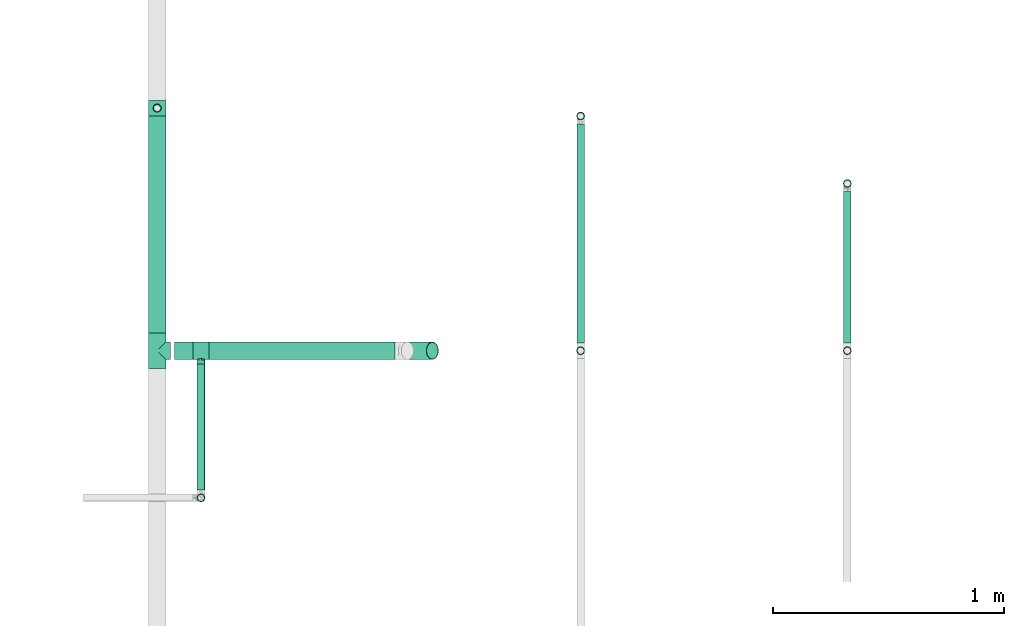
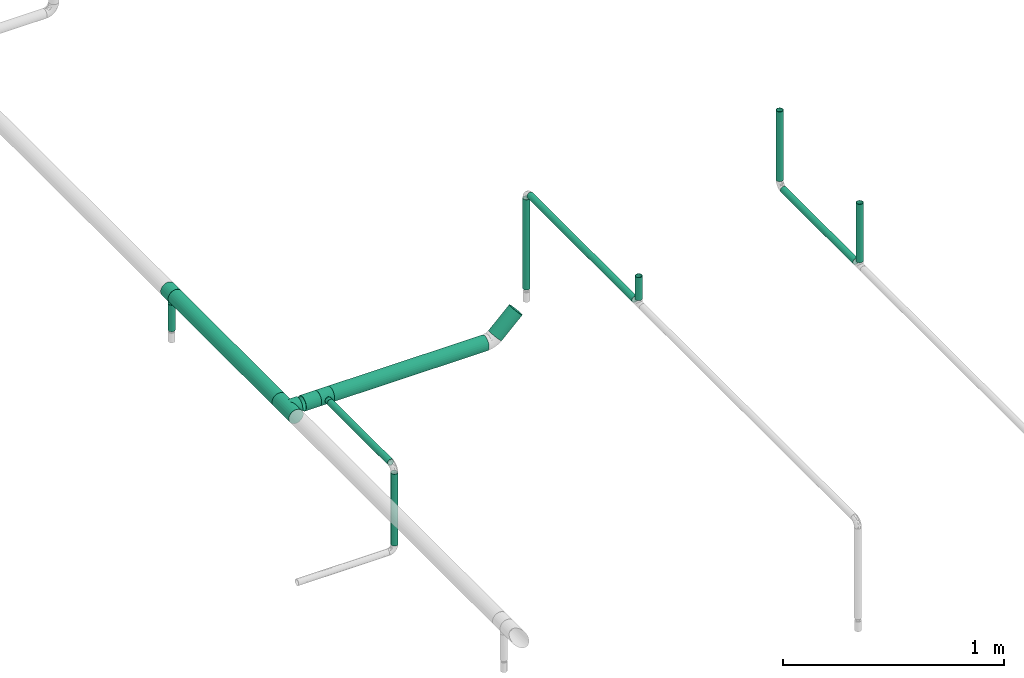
# One storey, part 6 of 95: 13 flow segments, 3 flow fittings.
"""IFC2X3 building model written with IfcOpenShell, lengths in millimetres."""

from ifc_helpers import new_model, entity, si_unit, converted_unit, derived_unit, direction, frame, origin_with_axes, origin_2d_with_axis, place, context, subcontext, project, spatial, hollow_circle, extrude, open_shell, surface_model, source, transform, mapped, type_object, element, save


model = new_model("IFC2X3")

# Units and contexts
model_context = context("Model", 3, precision=0.01, world=frame((0.0, 4.29681676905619e-09, 0.0)), true_north=direction((4.01073788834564e-13, 1.0)))
plan_context = context("Plan", 3, precision=0.01, world=frame((0.0, 4.29681676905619e-09, 0.0)), true_north=direction((4.01073788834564e-13, 1.0)))
body_context = subcontext(model_context, "Body", "Model", "MODEL_VIEW")
ifc_project = project(units=[converted_unit("PLANEANGLEUNIT", "DEGREE", entity("IfcPositiveLengthMeasure", 0.0174532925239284), si_unit("PLANEANGLEUNIT", "RADIAN"), dimensions=[0, 0, 0, 0, 0, 0, 0]), si_unit("AREAUNIT", "SQUARE_METRE"), si_unit("LENGTHUNIT", "METRE", prefix="MILLI"), si_unit("MASSUNIT", "GRAM", prefix="KILO"), si_unit("POWERUNIT", "WATT"), si_unit("PRESSUREUNIT", "PASCAL"), si_unit("FORCEUNIT", "NEWTON", prefix="KILO"), si_unit("ELECTRICVOLTAGEUNIT", "VOLT"), si_unit("ELECTRICCURRENTUNIT", "AMPERE"), si_unit("THERMODYNAMICTEMPERATUREUNIT", "DEGREE_CELSIUS"), si_unit("TIMEUNIT", "SECOND"), si_unit("VOLUMEUNIT", "CUBIC_METRE"), derived_unit("LINEARVELOCITYUNIT", [(si_unit("LENGTHUNIT", "METRE"), 1), (si_unit("TIMEUNIT", "SECOND"), -1)]), derived_unit("VOLUMETRICFLOWRATEUNIT", [(si_unit("VOLUMEUNIT", "CUBIC_METRE"), 1), (si_unit("TIMEUNIT", "SECOND"), -1)]), derived_unit("THERMALTRANSMITTANCEUNIT", [(si_unit("POWERUNIT", "WATT"), 1), (si_unit("THERMODYNAMICTEMPERATUREUNIT", "KELVIN"), -1), (si_unit("AREAUNIT", "SQUARE_METRE"), -1)]), derived_unit("SOUNDPRESSUREUNIT", [(si_unit("PRESSUREUNIT", "PASCAL"), 1)])], contexts=[model_context, plan_context])

# Site, building, storey
site_placement = place(None, frame((0.0, -4.29681676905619e-09, 0.0), z_axis=(0.0, 0.0, 1.0), x_axis=(1.0, 0.0, 0.0)))
site = spatial("IfcSite", under=ifc_project, at=site_placement, CompositionType="ELEMENT")
building_placement = place(site_placement, frame((0.0, 4.29681676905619e-09, 0.0), z_axis=(0.0, 0.0, 1.0), x_axis=(1.0, 0.0, 0.0)))
building = spatial("IfcBuilding", under=site, at=building_placement, Name="mc-building", CompositionType="ELEMENT")
storey_placement = place(building_placement, frame((0.0, 0.0, 210900.0), z_axis=(0.0, 0.0, 1.0), x_axis=(1.0, 0.0, 0.0)))
storey = spatial("IfcBuildingStorey", under=building, at=storey_placement, Name="Nivå F", CompositionType="ELEMENT", Elevation=210900.0)

# Flow fittings
pipe_fitting_type = type_object("IfcPipeFittingType", Name="magi_pipe_fe_tee_centric_90_NOR", PredefinedType="JUNCTION")
shared_shape_1 = source(origin_with_axes(), body_context, "Body", "SurfaceModel", [
    surface_model("IfcShellBasedSurfaceModel", [(-76.2, 19.05, -32.99557), (-76.2, 9.86101, -36.80177), (-76.2, 0.0, -38.1), (-76.2, 26.94077, -26.94077), (-76.2, 36.80177, -9.86101), (-76.2, 32.99557, -19.05), (-76.2, -19.05, -32.99557), (-76.2, -26.94077, -26.94077), (-76.2, -9.86101, -36.80177), (-76.2, 38.1, 0.0), (-76.2, 36.80177, 9.86101), (-76.2, -38.1, 0.0), (-76.2, -36.80177, -9.86101), (-76.2, -32.99557, -19.05), (-76.2, 32.99557, 19.05), (-76.2, -36.80177, 9.86101), (-76.2, 19.05, 32.99557), (-76.2, 26.94077, 26.94077), (-76.2, 0.0, 38.1), (-76.2, 9.86101, 36.80177), (-76.2, -26.94077, 26.94077), (-76.2, -32.99557, 19.05), (-76.2, -9.86101, 36.80177), (-76.2, -19.05, 32.99557), (76.2, 0.0, -38.1), (76.2, -36.80177, 9.86101), (76.2, -38.1, 0.0), (76.2, 36.80177, -9.86101), (76.2, 9.86101, -36.80177), (76.2, 19.05, -32.99557), (76.2, 26.94077, -26.94077), (76.2, 32.99557, -19.05), (76.2, -9.86101, -36.80177), (76.2, -26.94077, -26.94077), (76.2, -19.05, -32.99557), (76.2, -32.99557, -19.05), (76.2, -36.80177, -9.86101), (76.2, 19.05, 32.99557), (76.2, 36.80177, 9.86101), (76.2, 32.99557, 19.05), (76.2, 0.0, 38.1), (76.2, 26.94077, 26.94077), (76.2, 9.86101, 36.80177), (76.2, -32.99557, 19.05), (76.2, -26.94077, 26.94077), (76.2, -19.05, 32.99557), (76.2, -9.86101, 36.80177), (76.2, 38.1, 0.0), (37.03376, -37.03376, 8.95045), (38.1, -38.1, 0.0), (76.2, -34.89867, 14.4555), (35.56052, -35.56052, 12.98504), (34.08727, -34.08727, 17.01964), (18.8305, -18.8305, 33.12132), (76.2, -22.99539, 29.96817), (29.78269, -29.78269, 23.76134), (76.2, -29.96817, 22.99539), (24.5894, -24.5894, 29.10277), (-35.56052, -35.56052, 12.98504), (-76.2, -34.89867, 14.4555), (-34.08727, -34.08727, 17.01964), (-37.03376, -37.03376, 8.95045), (-38.1, -38.1, 0.0), (-18.8305, -18.8305, 33.12132), (-76.2, -22.99539, 29.96817), (-29.78269, -29.78269, 23.76134), (-24.5894, -24.5894, 29.10277), (-76.2, -29.96817, 22.99539), (-12.71924, -12.71924, 35.91422), (6.40528, -6.40528, 37.55772), (12.71924, -12.71924, 35.91422), (0.0, 0.0, 38.1), (-6.40528, -6.40528, 37.55772), (6.40528, -6.40528, -37.55772), (0.0, 0.0, -38.1), (12.71924, -12.71924, -35.91422), (-24.5894, -24.5894, -29.10277), (-76.2, -22.99539, -29.96817), (-35.56052, -35.56052, -12.98504), (-37.03376, -37.03376, -8.95045), (-29.78269, -29.78269, -23.76134), (-76.2, -29.96817, -22.99539), (-6.40528, -6.40528, -37.55772), (-12.71924, -12.71924, -35.91422), (18.8305, -18.8305, -33.12132), (76.2, -22.99539, -29.96817), (24.5894, -24.5894, -29.10277), (-76.2, -34.89867, -14.4555), (-34.08727, -34.08727, -17.01964), (29.78269, -29.78269, -23.76134), (76.2, -29.96817, -22.99539), (37.03376, -37.03376, -8.95045), (35.56052, -35.56052, -12.98504), (34.08727, -34.08727, -17.01964), (76.2, -34.89867, -14.4555), (-18.8305, -18.8305, -33.12132), (0.0, -57.15, -38.1), (9.86101, -57.15, -36.80177), (19.05, -57.15, -32.99557), (26.94077, -57.15, -26.94077), (32.99557, -57.15, -19.05), (36.80177, -57.15, -9.86101), (0.0, -57.15, 38.1), (-26.94077, -57.15, -26.94077), (-9.86101, -57.15, -36.80177), (-19.05, -57.15, -32.99557), (-36.80177, -57.15, -9.86101), (-32.99557, -57.15, -19.05), (-32.99557, -57.15, 19.05), (-36.80177, -57.15, 9.86101), (-38.1, -57.15, 0.0), (19.05, -57.15, 32.99557), (36.80177, -57.15, 9.86101), (32.99557, -57.15, 19.05), (26.94077, -57.15, 26.94077), (9.86101, -57.15, 36.80177), (-26.94077, -57.15, 26.94077), (-19.05, -57.15, 32.99557), (-9.86101, -57.15, 36.80177), (38.1, -57.15, 0.0)], [open_shell([[[0, 1, 2]], [[3, 0, 2]], [[4, 5, 3]], [[6, 7, 8]], [[9, 4, 10]], [[11, 3, 2]], [[4, 3, 11]], [[11, 8, 7]], [[12, 11, 13]], [[7, 13, 11]], [[11, 2, 8]], [[11, 10, 4]], [[14, 10, 11]], [[14, 11, 15]], [[15, 16, 14]], [[17, 14, 16]], [[18, 19, 16]], [[20, 18, 21]], [[15, 21, 18]], [[22, 18, 23]], [[20, 23, 18]], [[18, 16, 15]], [[24, 25, 26]], [[27, 28, 29]], [[30, 31, 27]], [[30, 27, 29]], [[28, 25, 24]], [[32, 33, 34]], [[32, 24, 33]], [[35, 26, 36]], [[26, 35, 33]], [[24, 26, 33]], [[28, 27, 37]], [[27, 38, 37]], [[37, 38, 39]], [[37, 40, 28]], [[37, 39, 41]], [[40, 37, 42]], [[43, 40, 44]], [[25, 28, 43]], [[45, 40, 46]], [[40, 45, 44]], [[40, 43, 28]], [[38, 27, 47]], [[26, 25, 48]], [[48, 49, 26]], [[25, 50, 51]], [[50, 43, 52]], [[45, 53, 54]], [[44, 55, 56]], [[55, 44, 57]], [[43, 55, 52]], [[57, 44, 54]], [[15, 58, 59]], [[60, 59, 58]], [[61, 11, 62]], [[11, 61, 15]], [[15, 61, 58]], [[63, 23, 64]], [[65, 66, 20]], [[65, 67, 21]], [[20, 66, 64]], [[63, 68, 23]], [[65, 21, 60]], [[50, 52, 51]], [[54, 53, 57]], [[46, 40, 69]], [[25, 51, 48]], [[53, 45, 70]], [[69, 70, 46]], [[65, 20, 67]], [[69, 40, 71]], [[70, 45, 46]], [[14, 41, 39]], [[10, 39, 38]], [[16, 42, 37]], [[17, 37, 41]], [[42, 71, 40]], [[9, 38, 47]], [[72, 71, 18]], [[60, 21, 59]], [[72, 22, 68]], [[22, 72, 18]], [[22, 23, 68]], [[71, 19, 18]], [[63, 64, 66]], [[42, 19, 71]], [[16, 19, 42]], [[16, 37, 17]], [[14, 17, 41]], [[10, 14, 39]], [[38, 9, 10]], [[55, 43, 56]], [[3, 31, 30]], [[4, 27, 31]], [[9, 47, 27]], [[0, 30, 29]], [[24, 32, 73]], [[28, 24, 74]], [[73, 32, 75]], [[76, 7, 77]], [[29, 28, 1]], [[32, 34, 75]], [[24, 73, 74]], [[4, 31, 5]], [[0, 3, 30]], [[5, 31, 3]], [[9, 27, 4]], [[12, 78, 79]], [[80, 13, 81]], [[82, 83, 8]], [[74, 82, 2]], [[74, 2, 1]], [[2, 82, 8]], [[83, 6, 8]], [[1, 0, 29]], [[74, 1, 28]], [[84, 85, 86]], [[85, 33, 86]], [[87, 88, 78]], [[84, 34, 85]], [[89, 86, 33]], [[90, 35, 89]], [[34, 84, 75]], [[36, 91, 92]], [[91, 36, 26]], [[93, 94, 92]], [[49, 91, 26]], [[35, 93, 89]], [[76, 77, 95]], [[36, 92, 94]], [[77, 6, 95]], [[7, 76, 80]], [[7, 80, 81]], [[93, 35, 94]], [[95, 6, 83]], [[79, 62, 11]], [[12, 87, 78]], [[88, 87, 13]], [[12, 79, 11]], [[88, 13, 80]], [[89, 33, 90]], [[96, 97, 98]], [[96, 98, 99]], [[99, 100, 101]], [[99, 101, 96]], [[102, 103, 96]], [[104, 103, 105]], [[104, 96, 103]], [[103, 106, 107]], [[103, 108, 106]], [[106, 109, 110]], [[111, 96, 101]], [[112, 113, 101]], [[101, 113, 111]], [[111, 102, 96]], [[111, 113, 114]], [[102, 111, 115]], [[108, 102, 116]], [[109, 106, 108]], [[117, 102, 118]], [[102, 117, 116]], [[102, 108, 103]], [[112, 101, 119]], [[61, 62, 110]], [[109, 61, 110]], [[116, 117, 66]], [[65, 108, 116]], [[60, 109, 108]], [[68, 117, 118]], [[60, 61, 109]], [[66, 65, 116]], [[60, 108, 65]], [[68, 63, 117]], [[102, 71, 72]], [[68, 118, 72]], [[66, 117, 63]], [[72, 118, 102]], [[69, 102, 115]], [[111, 70, 115]], [[113, 112, 52]], [[55, 114, 113]], [[57, 111, 114]], [[48, 112, 119]], [[57, 53, 111]], [[70, 69, 115]], [[53, 70, 111]], [[49, 48, 119]], [[52, 55, 113]], [[48, 52, 112]], [[57, 114, 55]], [[102, 69, 71]], [[49, 119, 91]], [[101, 91, 119]], [[89, 100, 99]], [[99, 98, 86]], [[93, 101, 100]], [[75, 98, 97]], [[93, 91, 101]], [[86, 89, 99]], [[93, 100, 89]], [[75, 84, 98]], [[96, 74, 73]], [[75, 97, 73]], [[86, 98, 84]], [[73, 97, 96]], [[82, 96, 104]], [[105, 83, 104]], [[107, 106, 88]], [[80, 103, 107]], [[76, 105, 103]], [[79, 106, 110]], [[76, 95, 105]], [[83, 82, 104]], [[95, 83, 105]], [[62, 79, 110]], [[88, 80, 107]], [[79, 88, 106]], [[76, 103, 80]], [[96, 82, 74]]])]),
])
flow_fitting_placement = place(storey_placement, frame((520864.85321, 446191.7762, 4370.29999999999), z_axis=(0.0, 0.0, 1.0), x_axis=(0.0, 1.0, 0.0)))
element("IfcFlowFitting", 1, at=flow_fitting_placement, inside=storey, type_object=pipe_fitting_type, Name="magi_pipe_fe_tee_centric_90_NOR", context=body_context, shape_type="MappedRepresentation", body=[
    mapped(shared_shape_1, transform((0.0, 0.0, 0.0), scale=1.0)),
])
shared_shape_2 = source(origin_with_axes(), body_context, "Body", "SurfaceModel", [
    surface_model("IfcShellBasedSurfaceModel", [(-33.8, 9.86101, -36.80177), (-33.8, 0.0, -38.1), (-33.8, 36.80177, -9.86101), (-33.8, 19.05, -32.99557), (-33.8, 32.99557, -19.05), (-33.8, 26.94077, -26.94077), (-33.8, -38.1, 0.0), (-33.8, -19.05, -32.99557), (-33.8, -26.94077, -26.94077), (-33.8, -9.86101, -36.80177), (-33.8, -32.99557, -19.05), (-33.8, -36.80177, -9.86101), (-33.8, 38.1, 0.0), (-33.8, 32.99557, 19.05), (-33.8, 36.80177, 9.86101), (-33.8, -36.80177, 9.86101), (-33.8, 19.05, 32.99557), (-33.8, 26.94077, 26.94077), (-33.8, 9.86101, 36.80177), (-33.8, 0.0, 38.1), (-33.8, -26.94077, 26.94077), (-33.8, -32.99557, 19.05), (-33.8, -9.86101, 36.80177), (-33.8, -19.05, 32.99557), (33.8, 0.0, -38.1), (33.8, 9.86101, -36.80177), (33.8, 19.05, -32.99557), (33.8, 26.94077, -26.94077), (33.8, 32.99557, -19.05), (33.8, 36.80177, -9.86101), (33.8, -38.1, 0.0), (33.8, -9.86101, -36.80177), (33.8, -26.94077, -26.94077), (33.8, -19.05, -32.99557), (33.8, -32.99557, -19.05), (33.8, -36.80177, -9.86101), (33.8, 36.80177, 9.86101), (33.8, 32.99557, 19.05), (33.8, 19.05, 32.99557), (33.8, 0.0, 38.1), (33.8, 26.94077, 26.94077), (33.8, 9.86101, 36.80177), (33.8, -26.94077, 26.94077), (33.8, -32.99557, 19.05), (33.8, -36.80177, 9.86101), (33.8, -19.05, 32.99557), (33.8, -9.86101, 36.80177), (33.8, 38.1, 0.0), (33.8, -37.45089, 4.9305), (15.86072, -37.65053, 5.83504), (16.9, -38.1, 0.0), (12.92726, -36.51183, 10.88559), (2.96752, -34.27545, 16.63742), (33.8, -34.89867, 14.4555), (8.48894, -35.18611, 14.61328), (-8.4904, -35.18646, 14.61243), (-33.8, -34.89867, 14.4555), (-15.8612, -37.65073, 5.83372), (-33.8, -37.45089, 4.9305), (-16.9, -38.1, 0.0), (-12.9317, -36.51341, 10.88031), (-2.97221, -34.27585, 16.63658), (-33.8, -37.45089, -4.9305), (-15.8612, -37.65073, -5.83372), (15.86072, -37.65053, -5.83504), (33.8, -37.45089, -4.9305), (-12.9317, -36.51341, -10.88031), (-33.8, -34.89867, -14.4555), (-8.4904, -35.18646, -14.61243), (2.96752, -34.27545, -16.63742), (8.48894, -35.18611, -14.61328), (33.8, -34.89867, -14.4555), (12.92726, -36.51183, -10.88559), (-2.97221, -34.27585, -16.63658), (4.37404, -57.15, -16.32415), (-16.9, -57.15, 0.0), (0.0, -57.15, -16.9), (14.63583, -57.15, -8.45), (8.45, -57.15, -14.63583), (16.32415, -57.15, -4.37404), (11.9501, -57.15, -11.9501), (-11.9501, -57.15, -11.9501), (-8.45, -57.15, -14.63583), (-4.37404, -57.15, -16.32415), (-14.63583, -57.15, -8.45), (-16.32415, -57.15, -4.37404), (16.9, -57.15, 0.0), (8.45, -57.15, 14.63583), (16.32415, -57.15, 4.37404), (14.63583, -57.15, 8.45), (-8.45, -57.15, 14.63583), (11.9501, -57.15, 11.9501), (4.37404, -57.15, 16.32415), (-16.32415, -57.15, 4.37404), (-11.9501, -57.15, 11.9501), (-14.63583, -57.15, 8.45), (0.0, -57.15, 16.9), (-4.37404, -57.15, 16.32415), (-16.3806, -37.87537, 2.91686), (-5.7313, -34.73116, 15.62451), (-0.00235, -34.27565, 16.637), (5.72823, -34.73078, 15.62535), (16.38036, -37.87526, 2.91752), (16.38036, -37.87526, -2.91752), (5.72823, -34.73078, -15.62535), (-0.00235, -34.27565, -16.637), (-5.7313, -34.73116, -15.62451), (-16.3806, -37.87537, -2.91686)], [open_shell([[[0, 1, 2]], [[3, 0, 2]], [[2, 4, 5]], [[3, 2, 5]], [[6, 2, 1]], [[7, 8, 9]], [[8, 1, 9]], [[10, 11, 8]], [[6, 8, 11]], [[8, 6, 1]], [[6, 12, 2]], [[13, 14, 12]], [[15, 13, 6]], [[16, 13, 15]], [[17, 13, 16]], [[18, 16, 19]], [[20, 19, 21]], [[16, 15, 21]], [[22, 19, 23]], [[20, 23, 19]], [[21, 19, 16]], [[12, 6, 13]], [[24, 25, 26]], [[24, 26, 27]], [[27, 28, 29]], [[24, 27, 30]], [[30, 27, 29]], [[31, 32, 33]], [[31, 24, 32]], [[34, 30, 35]], [[30, 34, 32]], [[24, 30, 32]], [[29, 36, 30]], [[36, 37, 30]], [[30, 37, 38]], [[38, 39, 30]], [[38, 37, 40]], [[39, 38, 41]], [[30, 42, 43]], [[44, 30, 43]], [[45, 39, 46]], [[45, 42, 30]], [[30, 39, 45]], [[36, 29, 47]], [[48, 44, 49]], [[50, 30, 48]], [[44, 51, 49]], [[43, 42, 52]], [[50, 48, 49]], [[44, 53, 51]], [[52, 54, 43]], [[42, 20, 52]], [[54, 53, 43]], [[55, 21, 56]], [[57, 58, 59]], [[6, 59, 58]], [[57, 60, 15]], [[55, 61, 21]], [[51, 53, 54]], [[15, 60, 56]], [[21, 61, 20]], [[56, 60, 55]], [[61, 52, 20]], [[57, 15, 58]], [[42, 23, 20]], [[19, 46, 39]], [[22, 45, 46]], [[18, 39, 41]], [[37, 36, 14]], [[17, 38, 40]], [[13, 40, 37]], [[41, 38, 16]], [[12, 36, 47]], [[23, 45, 22]], [[22, 46, 19]], [[18, 19, 39]], [[41, 16, 18]], [[16, 38, 17]], [[13, 17, 40]], [[14, 13, 37]], [[36, 12, 14]], [[45, 23, 42]], [[12, 47, 29]], [[29, 28, 2]], [[59, 62, 63]], [[27, 4, 28]], [[9, 24, 31]], [[0, 26, 25]], [[64, 35, 65]], [[24, 1, 25]], [[31, 33, 7]], [[27, 26, 5]], [[66, 67, 68]], [[4, 2, 28]], [[12, 29, 2]], [[27, 5, 4]], [[3, 26, 0]], [[26, 3, 5]], [[0, 25, 1]], [[9, 1, 24]], [[31, 7, 9]], [[33, 8, 7]], [[32, 34, 69]], [[70, 34, 71]], [[70, 69, 34]], [[35, 72, 71]], [[32, 69, 8]], [[30, 50, 65]], [[64, 72, 35]], [[64, 65, 50]], [[72, 70, 71]], [[73, 68, 10]], [[10, 8, 73]], [[68, 67, 10]], [[73, 8, 69]], [[66, 63, 11]], [[63, 62, 11]], [[62, 59, 6]], [[11, 67, 66]], [[32, 8, 33]], [[74, 75, 76]], [[77, 74, 78]], [[77, 79, 74]], [[77, 78, 80]], [[75, 74, 79]], [[76, 81, 82]], [[82, 83, 76]], [[84, 75, 85]], [[81, 76, 84]], [[75, 84, 76]], [[79, 86, 75]], [[87, 86, 88]], [[87, 88, 89]], [[90, 75, 87]], [[87, 89, 91]], [[90, 87, 92]], [[93, 94, 95]], [[94, 93, 90]], [[90, 96, 97]], [[93, 75, 90]], [[92, 96, 90]], [[87, 75, 86]], [[93, 98, 75]], [[60, 95, 94]], [[93, 95, 57]], [[94, 90, 55]], [[98, 59, 75]], [[57, 95, 60]], [[97, 61, 99]], [[55, 60, 94]], [[96, 52, 100]], [[87, 101, 92]], [[99, 90, 97]], [[99, 55, 90]], [[93, 57, 98]], [[92, 52, 96]], [[49, 89, 88]], [[102, 86, 50]], [[102, 49, 88]], [[91, 89, 51]], [[96, 61, 97]], [[101, 52, 92]], [[87, 54, 101]], [[87, 91, 54]], [[54, 91, 51]], [[51, 89, 49]], [[86, 102, 88]], [[100, 61, 96]], [[79, 103, 86]], [[72, 77, 80]], [[79, 77, 64]], [[80, 78, 70]], [[103, 50, 86]], [[64, 77, 72]], [[74, 69, 104]], [[70, 72, 80]], [[76, 73, 105]], [[82, 106, 83]], [[107, 75, 59]], [[104, 78, 74]], [[104, 70, 78]], [[68, 82, 81]], [[79, 64, 103]], [[63, 84, 85]], [[107, 63, 85]], [[84, 66, 81]], [[76, 69, 74]], [[83, 106, 73]], [[73, 76, 83]], [[68, 106, 82]], [[68, 81, 66]], [[66, 84, 63]], [[75, 107, 85]], [[105, 69, 76]]])]),
])
for number, where, z_axis, x_axis, name in (
    (2, (520864.85321, 447242.4, 4370.29999999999), (1.0, 0.0, 0.0), (0.0, 1.0, 0.0), "magi_pipe_fe_tee_centric_90_NOR"),
    (3, (521054.45717, 446191.7762, 4370.29999999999), (0.0, 0.0, 1.0), (1.0, 0.0, 0.0), "magi_pipe_fe_tee_centric_90_NOR"),
):
    element("IfcFlowFitting", number, at=place(storey_placement, frame(where, z_axis=z_axis, x_axis=x_axis)), inside=storey, type_object=pipe_fitting_type, Name=name, context=body_context, shape_type="MappedRepresentation", body=[
        mapped(shared_shape_2, transform((0.0, 0.0, 0.0), scale=1.0)),
    ])

# Flow segments
pipe_segment_type = type_object("IfcPipeSegmentType", Name="Stålrør normaltykke", PredefinedType="RIGIDSEGMENT")
shared_shape_3 = source(origin_with_axes(), body_context, "Body", "SweptSolid", [
    extrude(hollow_circle(Radius=16.9, WallThickness=2.0, at=origin_2d_with_axis()), frame((0.0, 0.0, 0.0), z_axis=(1.0, 0.0, 0.0), x_axis=(0.0, 1.0, 0.0)), (0.0, 0.0, 1.0), 146.5),
])
flow_segment_1_placement = place(storey_placement, frame((520864.85321, 447242.4, 4313.14999999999), z_axis=(0.0, 1.0, 0.0), x_axis=(0.0, 0.0, -1.0)))
element("IfcFlowSegment", 4, at=flow_segment_1_placement, inside=storey, type_object=pipe_segment_type, Name="Stålrør normaltykke", context=body_context, shape_type="MappedRepresentation", body=[
    mapped(shared_shape_3, transform((0.0, 0.0, 0.0), scale=1.0)),
])
shared_shape_4 = source(origin_with_axes(), body_context, "Body", "SweptSolid", [
    extrude(hollow_circle(Radius=16.9, WallThickness=2.0, at=origin_2d_with_axis()), frame((0.0, 0.0, 0.0), z_axis=(1.0, 0.0, 0.0), x_axis=(0.0, 1.0, 0.0)), (0.0, 0.0, 1.0), 385.6),
])
flow_segment_2_placement = place(storey_placement, frame((523853.43639, 446915.88295, 4532.64799999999), z_axis=(0.0, 1.0, 0.0), x_axis=(0.0, 0.0, -1.0)))
element("IfcFlowSegment", 5, at=flow_segment_2_placement, inside=storey, type_object=pipe_segment_type, Name="Stålrør normaltykke", context=body_context, shape_type="MappedRepresentation", body=[
    mapped(shared_shape_4, transform((0.0, 0.0, 0.0), scale=1.0)),
])
shared_shape_5 = source(origin_with_axes(), body_context, "Body", "SweptSolid", [
    extrude(hollow_circle(Radius=16.9, WallThickness=2.0, at=origin_2d_with_axis()), frame((0.0, 0.0, 0.0), z_axis=(1.0, 0.0, 0.0), x_axis=(0.0, 1.0, 0.0)), (0.0, 0.0, 1.0), 656.5),
])
flow_segment_3_placement = place(storey_placement, frame((523853.43639, 446882.08295, 4113.24799999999), z_axis=(0.0, 0.0, 1.0), x_axis=(0.0, -1.0, 0.0)))
element("IfcFlowSegment", 6, at=flow_segment_3_placement, inside=storey, type_object=pipe_segment_type, Name="Stålrør normaltykke", context=body_context, shape_type="MappedRepresentation", body=[
    mapped(shared_shape_5, transform((0.0, 0.0, 0.0), scale=1.0)),
])
shared_shape_6 = source(origin_with_axes(), body_context, "Body", "SweptSolid", [
    extrude(hollow_circle(Radius=16.9, WallThickness=2.0, at=origin_2d_with_axis()), frame((0.0, 0.0, 0.0), z_axis=(1.0, 0.0, 0.0), x_axis=(0.0, 1.0, 0.0)), (0.0, 0.0, 1.0), 396.7),
])
flow_segment_4_placement = place(storey_placement, frame((521054.45717, 445554.73125, 4336.5), z_axis=(0.0, -1.0, 0.0), x_axis=(0.0, 0.0, -1.0)))
element("IfcFlowSegment", 7, at=flow_segment_4_placement, inside=storey, type_object=pipe_segment_type, Name="Stålrør normaltykke", context=body_context, shape_type="MappedRepresentation", body=[
    mapped(shared_shape_6, transform((0.0, 0.0, 0.0), scale=1.0)),
])
shared_shape_7 = source(origin_with_axes(), body_context, "Body", "SweptSolid", [
    extrude(hollow_circle(Radius=16.9, WallThickness=2.0, at=origin_2d_with_axis()), frame((0.0, 0.0, 0.0), z_axis=(1.0, 0.0, 0.0), x_axis=(0.0, 1.0, 0.0)), (0.0, 0.0, 1.0), 546.1),
])
flow_segment_5_placement = place(storey_placement, frame((521054.45717, 445588.53125, 4370.29999999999), z_axis=(0.0, 0.0, 1.0), x_axis=(0.0, 1.0, 0.0)))
element("IfcFlowSegment", 8, at=flow_segment_5_placement, inside=storey, type_object=pipe_segment_type, Name="Stålrør normaltykke", context=body_context, shape_type="MappedRepresentation", body=[
    mapped(shared_shape_7, transform((0.0, 0.0, 0.0), scale=1.0)),
])
shared_shape_8 = source(origin_with_axes(), body_context, "Body", "SweptSolid", [
    extrude(hollow_circle(Radius=16.9, WallThickness=2.0, at=origin_2d_with_axis()), frame((0.0, 0.0, 0.0), z_axis=(1.0, 0.0, 0.0), x_axis=(0.0, 1.0, 0.0)), (0.0, 0.0, 1.0), 321.9),
])
flow_segment_6_placement = place(storey_placement, frame((523853.43639, 446191.7762, 4138.598), z_axis=(0.0, 1.0, 0.0), x_axis=(0.0, 0.0, 1.0)))
element("IfcFlowSegment", 9, at=flow_segment_6_placement, inside=storey, type_object=pipe_segment_type, Name="Stålrør normaltykke", context=body_context, shape_type="MappedRepresentation", body=[
    mapped(shared_shape_8, transform((0.0, 0.0, 0.0), scale=1.0)),
])
shared_shape_9 = source(origin_with_axes(), body_context, "Body", "SweptSolid", [
    extrude(hollow_circle(Radius=38.0, WallThickness=2.0, at=origin_2d_with_axis()), frame((0.0, 0.0, 0.0), z_axis=(1.0, 0.0, 0.0), x_axis=(0.0, 1.0, 0.0)), (0.0, 0.0, 1.0), 80.0),
])
flow_segment_7_placement = place(storey_placement, frame((521020.65717, 446191.7762, 4370.29999999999), z_axis=(0.0, 0.0, 1.0), x_axis=(-1.0, 0.0, 0.0)))
element("IfcFlowSegment", 10, at=flow_segment_7_placement, inside=storey, type_object=pipe_segment_type, Name="Stålrør normaltykke", context=body_context, shape_type="MappedRepresentation", body=[
    mapped(shared_shape_9, transform((0.0, 0.0, 0.0), scale=1.0)),
])
shared_shape_10 = source(origin_with_axes(), body_context, "Body", "SweptSolid", [
    extrude(hollow_circle(Radius=38.0, WallThickness=2.0, at=origin_2d_with_axis()), frame((0.0, 0.0, 0.0), z_axis=(1.0, 0.0, 0.0), x_axis=(0.0, 1.0, 0.0)), (0.0, 0.0, 1.0), 150.3),
])
flow_segment_8_placement = place(storey_placement, frame((521948.53711, 446191.7762, 4391.70931999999), z_axis=(-0.694970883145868, 0.0, 0.719037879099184), x_axis=(0.719037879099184, 0.0, 0.694970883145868)))
element("IfcFlowSegment", 11, at=flow_segment_8_placement, inside=storey, type_object=pipe_segment_type, Name="Stålrør normaltykke", context=body_context, shape_type="MappedRepresentation", body=[
    mapped(shared_shape_10, transform((0.0, 0.0, 0.0), scale=1.0)),
])
shared_shape_11 = source(origin_with_axes(), body_context, "Body", "SweptSolid", [
    extrude(hollow_circle(Radius=38.0, WallThickness=2.0, at=origin_2d_with_axis()), frame((0.0, 0.0, 0.0), z_axis=(1.0, 0.0, 0.0), x_axis=(0.0, 1.0, 0.0)), (0.0, 0.0, 1.0), 940.6),
])
flow_segment_9_placement = place(storey_placement, frame((520864.85321, 447208.6, 4370.29999999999), z_axis=(0.0, 0.0, 1.0), x_axis=(0.0, -1.0, 0.0)))
element("IfcFlowSegment", 12, at=flow_segment_9_placement, inside=storey, type_object=pipe_segment_type, Name="Stålrør normaltykke", context=body_context, shape_type="MappedRepresentation", body=[
    mapped(shared_shape_11, transform((0.0, 0.0, 0.0), scale=1.0)),
])
shared_shape_12 = source(origin_with_axes(), body_context, "Body", "SweptSolid", [
    extrude(hollow_circle(Radius=38.0, WallThickness=2.0, at=origin_2d_with_axis()), frame((0.0, 0.0, 0.0), z_axis=(1.0, 0.0, 0.0), x_axis=(0.0, 1.0, 0.0)), (0.0, 0.0, 1.0), 807.3),
])
flow_segment_10_placement = place(storey_placement, frame((521895.58033, 446191.7762, 4370.29999999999), z_axis=(0.0, 0.0, 1.0), x_axis=(-1.0, 0.0, 0.0)))
element("IfcFlowSegment", 13, at=flow_segment_10_placement, inside=storey, type_object=pipe_segment_type, Name="Stålrør normaltykke", context=body_context, shape_type="MappedRepresentation", body=[
    mapped(shared_shape_12, transform((0.0, 0.0, 0.0), scale=1.0)),
])
shared_shape_13 = source(origin_with_axes(), body_context, "Body", "SweptSolid", [
    extrude(hollow_circle(Radius=16.9, WallThickness=2.0, at=origin_2d_with_axis()), frame((0.0, 0.0, 0.0), z_axis=(1.0, 0.0, 0.0), x_axis=(0.0, 1.0, 0.0)), (0.0, 0.0, 1.0), 499.1),
])
flow_segment_11_placement = place(storey_placement, frame((522698.68266, 447207.85, 3775.348), z_axis=(-1.0, 0.0, 0.0), x_axis=(0.0, 0.0, 1.0)))
element("IfcFlowSegment", 14, at=flow_segment_11_placement, inside=storey, type_object=pipe_segment_type, Name="Stålrør normaltykke", context=body_context, shape_type="MappedRepresentation", body=[
    mapped(shared_shape_13, transform((0.0, 0.0, 0.0), scale=1.0)),
])
shared_shape_14 = source(origin_with_axes(), body_context, "Body", "SweptSolid", [
    extrude(hollow_circle(Radius=16.9, WallThickness=2.0, at=origin_2d_with_axis()), frame((0.0, 0.0, 0.0), z_axis=(1.0, 0.0, 0.0), x_axis=(0.0, 1.0, 0.0)), (0.0, 0.0, 1.0), 948.5),
])
flow_segment_12_placement = place(storey_placement, frame((522698.68266, 447174.05, 4308.26618000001), z_axis=(0.0, 0.0, 1.0), x_axis=(0.0, -1.0, 0.0)))
element("IfcFlowSegment", 15, at=flow_segment_12_placement, inside=storey, type_object=pipe_segment_type, Name="Stålrør normaltykke", context=body_context, shape_type="MappedRepresentation", body=[
    mapped(shared_shape_14, transform((0.0, 0.0, 0.0), scale=1.0)),
])
shared_shape_15 = source(origin_with_axes(), body_context, "Body", "SweptSolid", [
    extrude(hollow_circle(Radius=16.9, WallThickness=2.0, at=origin_2d_with_axis()), frame((0.0, 0.0, 0.0), z_axis=(1.0, 0.0, 0.0), x_axis=(0.0, 1.0, 0.0)), (0.0, 0.0, 1.0), 126.8),
])
flow_segment_13_placement = place(storey_placement, frame((522698.68266, 446191.7762, 4333.61618000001), z_axis=(0.0, 1.0, 0.0), x_axis=(0.0, 0.0, 1.0)))
element("IfcFlowSegment", 16, at=flow_segment_13_placement, inside=storey, type_object=pipe_segment_type, Name="Stålrør normaltykke", context=body_context, shape_type="MappedRepresentation", body=[
    mapped(shared_shape_15, transform((0.0, 0.0, 0.0), scale=1.0)),
])

save(model, "model.ifc")
